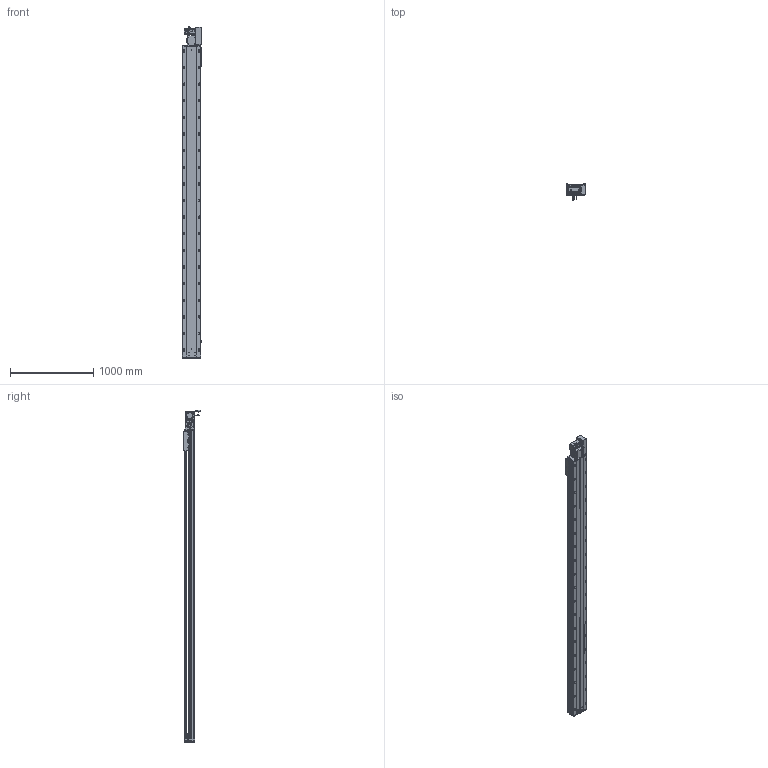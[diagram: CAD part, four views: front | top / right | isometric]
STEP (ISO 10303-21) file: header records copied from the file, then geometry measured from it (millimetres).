
FILE_DESCRIPTION (( 'STEP AP203' ), '1' );
FILE_NAME ('RY220-T-300-RK.SLDASM_3400.step', '2022-07-25T08:26:24', ( '' ), ( '' ), 'SwSTEP 2.0', 'SolidWorks 2016', '' );
FILE_SCHEMA (( 'CONFIG_CONTROL_DESIGN' ));
Length unit declared in the file: millimetre
Products named in the file (14): RY220-T-蛌殏萇儂假蚾啣(750W); RY220-同步轮副支撑座6304×2; RY220圉猾敕々湍臏賑輸; 110A-T-肮祭謫釱傷裔; RY220-T-300-奻裔啣_3400; 滅袉蝶18-15; RY220-俋离672覜茼んえ; RY220-T-湍謫欶(鍼踢); RY220-T-300-RK.SLDASM_3400; RY220翋肮祭謫裔啣; RY220翋肮祭謫釱; 怢湛750W_ECMA-CX0807ES; 覜茼ん672; RY220-T菁釱-300_3400
Assembly tree (18 placements, depth 2):
  RY220-T-300-RK.SLDASM_3400
    RY220-T菁釱-300_3400
    RY220翋肮祭謫釱
    覜茼ん672  x3
    RY220圉猾敕々湍臏賑輸
    RY220-T-300-奻裔啣_3400
    RY220-俋离672覜茼んえ
    滅袉蝶18-15  x3
    RY220翋肮祭謫裔啣  x2
    110A-T-肮祭謫釱傷裔
    怢湛750W_ECMA-CX0807ES
    RY220-T-湍謫欶(鍼踢)
    RY220-T-蛌殏萇儂假蚾啣(750W)
    RY220-同步轮副支撑座6304×2
Bounding box: 238.7 x 198.77 x 3995.24 mm (x, y, z)
Volume: 27793636.3 mm3; surface area: 8642703.3 mm2
Topology: 19 solids, 19 shells, 3112 faces, 8611 edges, 5374 vertices
Faces by surface type: cylinder 1552, plane 1069, cone 409, bspline 56, sphere 16, torus 10
Entity records: 103763 total; most frequent: CARTESIAN_POINT 29165, ORIENTED_EDGE 15386, DIRECTION 14940, EDGE_CURVE 7693, AXIS2_PLACEMENT_3D 5418, VERTEX_POINT 4998, VECTOR 4104, LINE 4104
